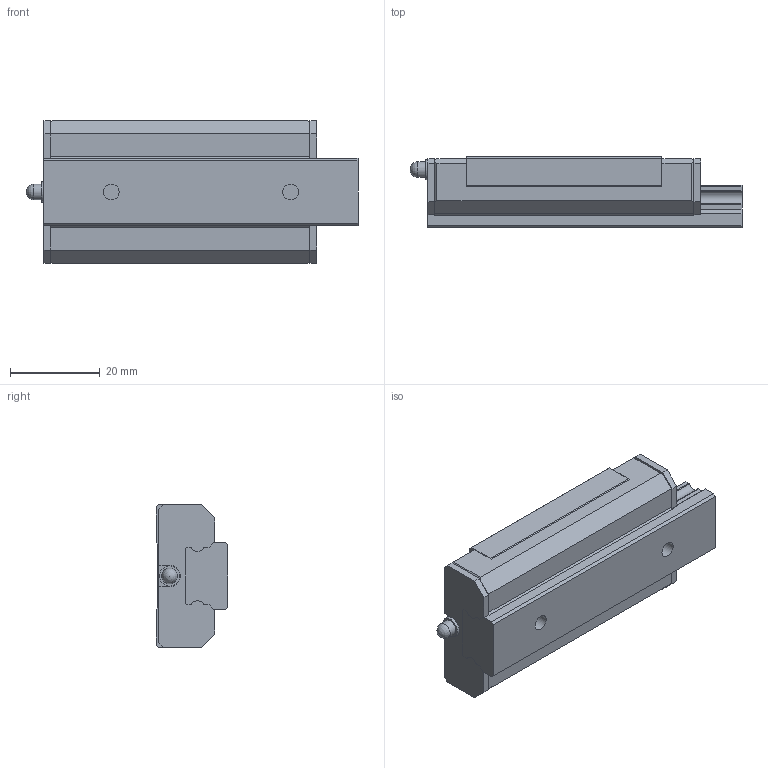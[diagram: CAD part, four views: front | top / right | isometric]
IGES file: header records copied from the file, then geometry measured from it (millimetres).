
Start section: Data from Parasolid IGES Translator 26.0.171, Copyright(c) 2006 Siemens PLM Software. All Rights Reserved.
Global section: file name: SRS15GNSS-70LM_G15_0_PB107_0_0_0_0_1.igs; native system: By Siemens PLM Incorporated; preprocessor: XPlus GENERIC/IGES 26.0.171; author: Noname; organization: Noname; date: 20240517.102437; units: millimetre
Bounding box: 74 x 16 x 32 mm (x, y, z)
Surface area: 10889.3 mm2 (no closed solid volume)
Topology: 0 solids, 0 shells, 143 faces, 755 edges, 729 vertices
Faces by surface type: extrusion 103, revolution 40
